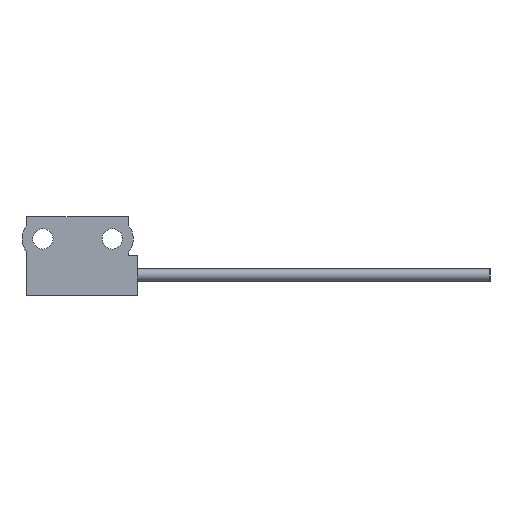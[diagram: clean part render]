
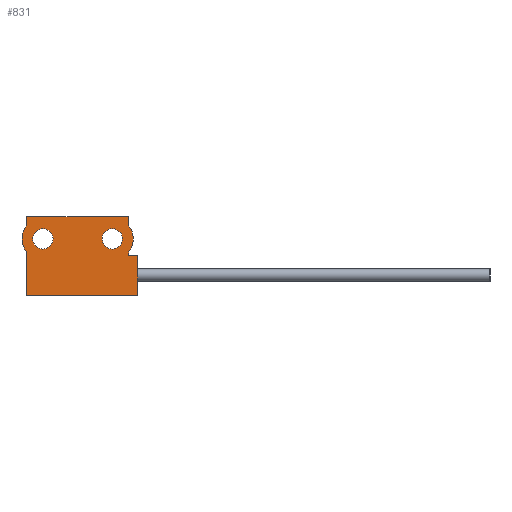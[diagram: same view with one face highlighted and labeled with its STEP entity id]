
A CAD part, left-side view. The second image highlights one B-rep face of the part: STEP entity #831.
In plain terms, the highlighted planar face has unit normal (-1, 0, 0) as drawn and (0, -1, 0) by its records, which use the part's own axes.
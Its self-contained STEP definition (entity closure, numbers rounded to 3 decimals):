
#365 = EDGE_CURVE ( 'NONE', #549, #544, #1410, .T. ) ;
#397 = VERTEX_POINT ( 'NONE', #1541 ) ;
#544 = VERTEX_POINT ( 'NONE', #1643 ) ;
#549 = VERTEX_POINT ( 'NONE', #1660 ) ;
#620 = EDGE_CURVE ( 'NONE', #397, #621, #1731, .T. ) ;
#621 = VERTEX_POINT ( 'NONE', #1726 ) ;
#716 = VERTEX_POINT ( 'NONE', #1913 ) ;
#717 = EDGE_CURVE ( 'NONE', #829, #716, #1912, .T. ) ;
#729 = ORIENTED_EDGE ( 'NONE', *, *, #730, .F. ) ;
#730 = EDGE_CURVE ( 'NONE', #716, #808, #1871, .T. ) ;
#731 = ORIENTED_EDGE ( 'NONE', *, *, #717, .F. ) ;
#732 = EDGE_LOOP ( 'NONE', ( #770, #772 ) ) ;
#742 = ORIENTED_EDGE ( 'NONE', *, *, #743, .F. ) ;
#743 = EDGE_CURVE ( 'NONE', #805, #829, #1855, .T. ) ;
#744 = EDGE_CURVE ( 'NONE', #763, #825, #1851, .T. ) ;
#745 = ORIENTED_EDGE ( 'NONE', *, *, #746, .T. ) ;
#746 = EDGE_CURVE ( 'NONE', #763, #747, #1847, .T. ) ;
#747 = VERTEX_POINT ( 'NONE', #1896 ) ;
#759 = ORIENTED_EDGE ( 'NONE', *, *, #760, .F. ) ;
#760 = EDGE_CURVE ( 'NONE', #761, #766, #1924, .T. ) ;
#761 = VERTEX_POINT ( 'NONE', #1920 ) ;
#762 = ORIENTED_EDGE ( 'NONE', *, *, #744, .F. ) ;
#763 = VERTEX_POINT ( 'NONE', #1919 ) ;
#764 = ORIENTED_EDGE ( 'NONE', *, *, #765, .F. ) ;
#765 = EDGE_CURVE ( 'NONE', #766, #768, #1236, .T. ) ;
#766 = VERTEX_POINT ( 'NONE', #2322 ) ;
#767 = EDGE_CURVE ( 'NONE', #768, #805, #2321, .T. ) ;
#768 = VERTEX_POINT ( 'NONE', #2454 ) ;
#770 = ORIENTED_EDGE ( 'NONE', *, *, #771, .T. ) ;
#771 = EDGE_CURVE ( 'NONE', #621, #397, #2320, .T. ) ;
#772 = ORIENTED_EDGE ( 'NONE', *, *, #620, .T. ) ;
#773 = EDGE_LOOP ( 'NONE', ( #835, #836 ) ) ;
#805 = VERTEX_POINT ( 'NONE', #2378 ) ;
#806 = ORIENTED_EDGE ( 'NONE', *, *, #767, .F. ) ;
#807 = ORIENTED_EDGE ( 'NONE', *, *, #809, .F. ) ;
#808 = VERTEX_POINT ( 'NONE', #2377 ) ;
#809 = EDGE_CURVE ( 'NONE', #808, #747, #2419, .T. ) ;
#823 = ORIENTED_EDGE ( 'NONE', *, *, #824, .F. ) ;
#824 = EDGE_CURVE ( 'NONE', #825, #761, #2436, .T. ) ;
#825 = VERTEX_POINT ( 'NONE', #2432 ) ;
#829 = VERTEX_POINT ( 'NONE', #2289 ) ;
#831 = ADVANCED_FACE ( 'NONE', ( #2283, #2282, #2281 ), #2338, .F. ) ;
#833 = EDGE_LOOP ( 'NONE', ( #742, #806, #764, #759, #823, #762, #745, #807, #729, #731 ) ) ;
#835 = ORIENTED_EDGE ( 'NONE', *, *, #365, .F. ) ;
#836 = ORIENTED_EDGE ( 'NONE', *, *, #837, .F. ) ;
#837 = EDGE_CURVE ( 'NONE', #544, #549, #2332, .T. ) ;
#1226 = DIRECTION ( 'NONE',  ( 0., 0., 1. ) ) ;
#1234 = DIRECTION ( 'NONE',  ( 0., 1., 0. ) ) ;
#1235 = AXIS2_PLACEMENT_3D ( 'NONE', #1237, #1234, #1226 ) ;
#1236 = CIRCLE ( 'NONE', #1235, 2.25 ) ;
#1237 = CARTESIAN_POINT ( 'NONE',  ( 3.75, -1.5, 3.9 ) ) ;
#1406 = DIRECTION ( 'NONE',  ( 0., 0., 1. ) ) ;
#1407 = DIRECTION ( 'NONE',  ( 0., -1., 0. ) ) ;
#1408 = CARTESIAN_POINT ( 'NONE',  ( -3.75, -1.5, 3.9 ) ) ;
#1409 = AXIS2_PLACEMENT_3D ( 'NONE', #1408, #1407, #1406 ) ;
#1410 = CIRCLE ( 'NONE', #1409, 1.1 ) ;
#1541 = CARTESIAN_POINT ( 'NONE',  ( 3.75, -1.5, 2.8 ) ) ;
#1643 = CARTESIAN_POINT ( 'NONE',  ( -3.75, -1.5, 2.8 ) ) ;
#1660 = CARTESIAN_POINT ( 'NONE',  ( -3.75, -1.5, 5. ) ) ;
#1726 = CARTESIAN_POINT ( 'NONE',  ( 3.75, -1.5, 5. ) ) ;
#1727 = DIRECTION ( 'NONE',  ( 0., 0., 1. ) ) ;
#1728 = DIRECTION ( 'NONE',  ( 0., 1., 0. ) ) ;
#1729 = CARTESIAN_POINT ( 'NONE',  ( 3.75, -1.5, 3.9 ) ) ;
#1730 = AXIS2_PLACEMENT_3D ( 'NONE', #1729, #1728, #1727 ) ;
#1731 = CIRCLE ( 'NONE', #1730, 1.1 ) ;
#1847 = CIRCLE ( 'NONE', #1900, 2.25 ) ;
#1848 = DIRECTION ( 'NONE',  ( 0., 0., 1. ) ) ;
#1849 = VECTOR ( 'NONE', #1848, 1000. ) ;
#1850 = CARTESIAN_POINT ( 'NONE',  ( -5.5, -1.5, -2.2 ) ) ;
#1851 = LINE ( 'NONE', #1850, #1849 ) ;
#1852 = DIRECTION ( 'NONE',  ( 1., 0., 0. ) ) ;
#1853 = VECTOR ( 'NONE', #1852, 1000. ) ;
#1854 = CARTESIAN_POINT ( 'NONE',  ( -5.5, -1.5, 2.1 ) ) ;
#1855 = LINE ( 'NONE', #1854, #1853 ) ;
#1868 = VECTOR ( 'NONE', #1869, 1000. ) ;
#1869 = DIRECTION ( 'NONE',  ( -1., 0., 0. ) ) ;
#1870 = CARTESIAN_POINT ( 'NONE',  ( -5.5, -1.5, -2.2 ) ) ;
#1871 = LINE ( 'NONE', #1870, #1868 ) ;
#1896 = CARTESIAN_POINT ( 'NONE',  ( -5.5, -1.5, 2.486 ) ) ;
#1897 = DIRECTION ( 'NONE',  ( 0., 0., 1. ) ) ;
#1898 = DIRECTION ( 'NONE',  ( 0., -1., 0. ) ) ;
#1899 = CARTESIAN_POINT ( 'NONE',  ( -3.75, -1.5, 3.9 ) ) ;
#1900 = AXIS2_PLACEMENT_3D ( 'NONE', #1899, #1898, #1897 ) ;
#1909 = DIRECTION ( 'NONE',  ( 0., 0., -1. ) ) ;
#1910 = VECTOR ( 'NONE', #1909, 1000. ) ;
#1911 = CARTESIAN_POINT ( 'NONE',  ( 6.5, -1.5, -2.2 ) ) ;
#1912 = LINE ( 'NONE', #1911, #1910 ) ;
#1913 = CARTESIAN_POINT ( 'NONE',  ( 6.5, -1.5, -2.2 ) ) ;
#1919 = CARTESIAN_POINT ( 'NONE',  ( -5.5, -1.5, 5.314 ) ) ;
#1920 = CARTESIAN_POINT ( 'NONE',  ( 5.5, -1.5, 6.3 ) ) ;
#1921 = DIRECTION ( 'NONE',  ( 0., 0., -1. ) ) ;
#1922 = VECTOR ( 'NONE', #1921, 1000. ) ;
#1923 = CARTESIAN_POINT ( 'NONE',  ( 5.5, -1.5, 6.3 ) ) ;
#1924 = LINE ( 'NONE', #1923, #1922 ) ;
#2281 = FACE_BOUND ( 'NONE', #773, .T. ) ;
#2282 = FACE_BOUND ( 'NONE', #732, .T. ) ;
#2283 = FACE_OUTER_BOUND ( 'NONE', #833, .T. ) ;
#2289 = CARTESIAN_POINT ( 'NONE',  ( 6.5, -1.5, 2.1 ) ) ;
#2310 = VECTOR ( 'NONE', #2455, 1000. ) ;
#2311 = CARTESIAN_POINT ( 'NONE',  ( 5.5, -1.5, 6.3 ) ) ;
#2320 = CIRCLE ( 'NONE', #2343, 1.1 ) ;
#2321 = LINE ( 'NONE', #2311, #2310 ) ;
#2322 = CARTESIAN_POINT ( 'NONE',  ( 5.5, -1.5, 5.314 ) ) ;
#2328 = DIRECTION ( 'NONE',  ( 0., 0., 1. ) ) ;
#2329 = DIRECTION ( 'NONE',  ( 0., -1., 0. ) ) ;
#2330 = CARTESIAN_POINT ( 'NONE',  ( -3.75, -1.5, 3.9 ) ) ;
#2331 = AXIS2_PLACEMENT_3D ( 'NONE', #2330, #2329, #2328 ) ;
#2332 = CIRCLE ( 'NONE', #2331, 1.1 ) ;
#2334 = DIRECTION ( 'NONE',  ( 0., 0., 1. ) ) ;
#2335 = DIRECTION ( 'NONE',  ( 0., 1., 0. ) ) ;
#2336 = CARTESIAN_POINT ( 'NONE',  ( -5.5, -1.5, 6.3 ) ) ;
#2337 = AXIS2_PLACEMENT_3D ( 'NONE', #2336, #2335, #2334 ) ;
#2338 = PLANE ( 'NONE',  #2337 ) ;
#2340 = DIRECTION ( 'NONE',  ( 0., 0., 1. ) ) ;
#2341 = DIRECTION ( 'NONE',  ( 0., 1., 0. ) ) ;
#2342 = CARTESIAN_POINT ( 'NONE',  ( 3.75, -1.5, 3.9 ) ) ;
#2343 = AXIS2_PLACEMENT_3D ( 'NONE', #2342, #2341, #2340 ) ;
#2377 = CARTESIAN_POINT ( 'NONE',  ( -5.5, -1.5, -2.2 ) ) ;
#2378 = CARTESIAN_POINT ( 'NONE',  ( 5.5, -1.5, 2.1 ) ) ;
#2416 = DIRECTION ( 'NONE',  ( 0., 0., 1. ) ) ;
#2417 = VECTOR ( 'NONE', #2416, 1000. ) ;
#2418 = CARTESIAN_POINT ( 'NONE',  ( -5.5, -1.5, -2.2 ) ) ;
#2419 = LINE ( 'NONE', #2418, #2417 ) ;
#2432 = CARTESIAN_POINT ( 'NONE',  ( -5.5, -1.5, 6.3 ) ) ;
#2433 = DIRECTION ( 'NONE',  ( 1., 0., 0. ) ) ;
#2434 = VECTOR ( 'NONE', #2433, 1000. ) ;
#2435 = CARTESIAN_POINT ( 'NONE',  ( -5.5, -1.5, 6.3 ) ) ;
#2436 = LINE ( 'NONE', #2435, #2434 ) ;
#2454 = CARTESIAN_POINT ( 'NONE',  ( 5.5, -1.5, 2.486 ) ) ;
#2455 = DIRECTION ( 'NONE',  ( 0., 0., -1. ) ) ;
